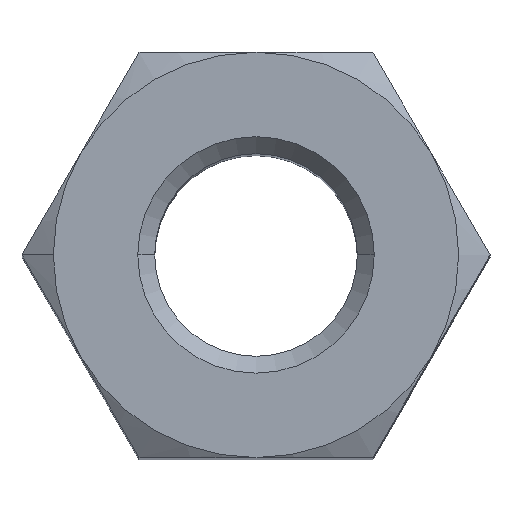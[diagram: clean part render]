
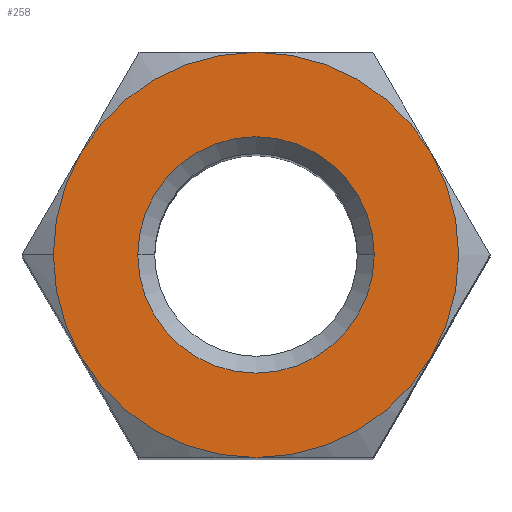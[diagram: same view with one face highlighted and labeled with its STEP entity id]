
A CAD part, top view. The second image highlights one B-rep face of the part: STEP entity #258.
In plain terms, the highlighted planar face has unit normal (0, 0, 1).
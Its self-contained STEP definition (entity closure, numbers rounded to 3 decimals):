
#15 = AXIS2_PLACEMENT_3D ( 'NONE', #674, #477, #817 ) ;
#25 = VERTEX_POINT ( 'NONE', #630 ) ;
#40 = CARTESIAN_POINT ( 'NONE',  ( -3., 0., 9. ) ) ;
#47 = AXIS2_PLACEMENT_3D ( 'NONE', #520, #184, #174 ) ;
#51 = DIRECTION ( 'NONE',  ( -1., 0., 0. ) ) ;
#57 = ORIENTED_EDGE ( 'NONE', *, *, #594, .T. ) ;
#73 = ORIENTED_EDGE ( 'NONE', *, *, #658, .F. ) ;
#85 = CARTESIAN_POINT ( 'NONE',  ( 2.598, -1.5, 9. ) ) ;
#92 = CARTESIAN_POINT ( 'NONE',  ( -1.75, 0., 9. ) ) ;
#97 = CARTESIAN_POINT ( 'NONE',  ( 0., 0., 9. ) ) ;
#103 = CARTESIAN_POINT ( 'NONE',  ( 0., 0., 9. ) ) ;
#107 = CARTESIAN_POINT ( 'NONE',  ( 2.598, 1.5, 9. ) ) ;
#132 = CIRCLE ( 'NONE', #504, 3. ) ;
#152 = DIRECTION ( 'NONE',  ( 0., 0., 1. ) ) ;
#165 = DIRECTION ( 'NONE',  ( 1., 0., 0. ) ) ;
#171 = AXIS2_PLACEMENT_3D ( 'NONE', #299, #783, #452 ) ;
#172 = PLANE ( 'NONE',  #198 ) ;
#174 = DIRECTION ( 'NONE',  ( -1., 0., 0. ) ) ;
#179 = DIRECTION ( 'NONE',  ( 0., 0., 1. ) ) ;
#184 = DIRECTION ( 'NONE',  ( 0., 0., -1. ) ) ;
#189 = CARTESIAN_POINT ( 'NONE',  ( 0., -3., 9. ) ) ;
#190 = CARTESIAN_POINT ( 'NONE',  ( 0., 0., 9. ) ) ;
#198 = AXIS2_PLACEMENT_3D ( 'NONE', #779, #726, #165 ) ;
#211 = EDGE_CURVE ( 'NONE', #256, #228, #334, .T. ) ;
#228 = VERTEX_POINT ( 'NONE', #92 ) ;
#231 = FACE_OUTER_BOUND ( 'NONE', #383, .T. ) ;
#249 = CARTESIAN_POINT ( 'NONE',  ( -2.598, 1.5, 9. ) ) ;
#251 = ORIENTED_EDGE ( 'NONE', *, *, #761, .T. ) ;
#256 = VERTEX_POINT ( 'NONE', #840 ) ;
#258 = ADVANCED_FACE ( 'NONE', ( #834, #231 ), #172, .F. ) ;
#272 = CIRCLE ( 'NONE', #708, 1.75 ) ;
#287 = VERTEX_POINT ( 'NONE', #189 ) ;
#290 = DIRECTION ( 'NONE',  ( -1., 0., 0. ) ) ;
#299 = CARTESIAN_POINT ( 'NONE',  ( 0., 0., 9. ) ) ;
#310 = CARTESIAN_POINT ( 'NONE',  ( -2.598, -1.5, 9. ) ) ;
#319 = CIRCLE ( 'NONE', #459, 3. ) ;
#321 = CIRCLE ( 'NONE', #623, 3. ) ;
#325 = DIRECTION ( 'NONE',  ( 0., 0., -1. ) ) ;
#332 = ORIENTED_EDGE ( 'NONE', *, *, #419, .T. ) ;
#334 = CIRCLE ( 'NONE', #171, 1.75 ) ;
#341 = DIRECTION ( 'NONE',  ( 0., 0., 1. ) ) ;
#350 = AXIS2_PLACEMENT_3D ( 'NONE', #859, #586, #591 ) ;
#383 = EDGE_LOOP ( 'NONE', ( #608, #251, #57, #332, #679, #512, #73 ) ) ;
#392 = CARTESIAN_POINT ( 'NONE',  ( 0., 0., 9. ) ) ;
#419 = EDGE_CURVE ( 'NONE', #287, #454, #319, .T. ) ;
#452 = DIRECTION ( 'NONE',  ( -1., 0., 0. ) ) ;
#454 = VERTEX_POINT ( 'NONE', #85 ) ;
#459 = AXIS2_PLACEMENT_3D ( 'NONE', #97, #772, #638 ) ;
#477 = DIRECTION ( 'NONE',  ( 0., 0., 1. ) ) ;
#503 = ORIENTED_EDGE ( 'NONE', *, *, #670, .T. ) ;
#504 = AXIS2_PLACEMENT_3D ( 'NONE', #392, #179, #51 ) ;
#512 = ORIENTED_EDGE ( 'NONE', *, *, #725, .T. ) ;
#520 = CARTESIAN_POINT ( 'NONE',  ( 0., 0., 9. ) ) ;
#521 = VERTEX_POINT ( 'NONE', #310 ) ;
#541 = VERTEX_POINT ( 'NONE', #40 ) ;
#559 = CARTESIAN_POINT ( 'NONE',  ( 0., 0., 9. ) ) ;
#586 = DIRECTION ( 'NONE',  ( 0., 0., 1. ) ) ;
#591 = DIRECTION ( 'NONE',  ( -1., 0., 0. ) ) ;
#592 = VERTEX_POINT ( 'NONE', #107 ) ;
#594 = EDGE_CURVE ( 'NONE', #521, #287, #132, .T. ) ;
#608 = ORIENTED_EDGE ( 'NONE', *, *, #876, .T. ) ;
#611 = EDGE_CURVE ( 'NONE', #454, #592, #620, .T. ) ;
#614 = VERTEX_POINT ( 'NONE', #249 ) ;
#617 = DIRECTION ( 'NONE',  ( -1., 0., 0. ) ) ;
#620 = CIRCLE ( 'NONE', #350, 3. ) ;
#623 = AXIS2_PLACEMENT_3D ( 'NONE', #190, #341, #617 ) ;
#630 = CARTESIAN_POINT ( 'NONE',  ( 0., 3., 9. ) ) ;
#638 = DIRECTION ( 'NONE',  ( -1., 0., 0. ) ) ;
#639 = CIRCLE ( 'NONE', #15, 3. ) ;
#658 = EDGE_CURVE ( 'NONE', #614, #25, #802, .T. ) ;
#670 = EDGE_CURVE ( 'NONE', #228, #256, #272, .T. ) ;
#674 = CARTESIAN_POINT ( 'NONE',  ( 0., 0., 9. ) ) ;
#679 = ORIENTED_EDGE ( 'NONE', *, *, #611, .T. ) ;
#708 = AXIS2_PLACEMENT_3D ( 'NONE', #103, #325, #869 ) ;
#723 = CIRCLE ( 'NONE', #813, 3. ) ;
#725 = EDGE_CURVE ( 'NONE', #592, #25, #639, .T. ) ;
#726 = DIRECTION ( 'NONE',  ( 0., 0., -1. ) ) ;
#761 = EDGE_CURVE ( 'NONE', #541, #521, #321, .T. ) ;
#772 = DIRECTION ( 'NONE',  ( 0., 0., 1. ) ) ;
#779 = CARTESIAN_POINT ( 'NONE',  ( 0., 0., 9. ) ) ;
#783 = DIRECTION ( 'NONE',  ( 0., 0., -1. ) ) ;
#802 = CIRCLE ( 'NONE', #47, 3. ) ;
#809 = ORIENTED_EDGE ( 'NONE', *, *, #211, .T. ) ;
#813 = AXIS2_PLACEMENT_3D ( 'NONE', #559, #152, #290 ) ;
#817 = DIRECTION ( 'NONE',  ( -1., 0., 0. ) ) ;
#834 = FACE_BOUND ( 'NONE', #880, .T. ) ;
#840 = CARTESIAN_POINT ( 'NONE',  ( 1.75, 0., 9. ) ) ;
#859 = CARTESIAN_POINT ( 'NONE',  ( 0., 0., 9. ) ) ;
#869 = DIRECTION ( 'NONE',  ( -1., 0., 0. ) ) ;
#876 = EDGE_CURVE ( 'NONE', #614, #541, #723, .T. ) ;
#880 = EDGE_LOOP ( 'NONE', ( #809, #503 ) ) ;
